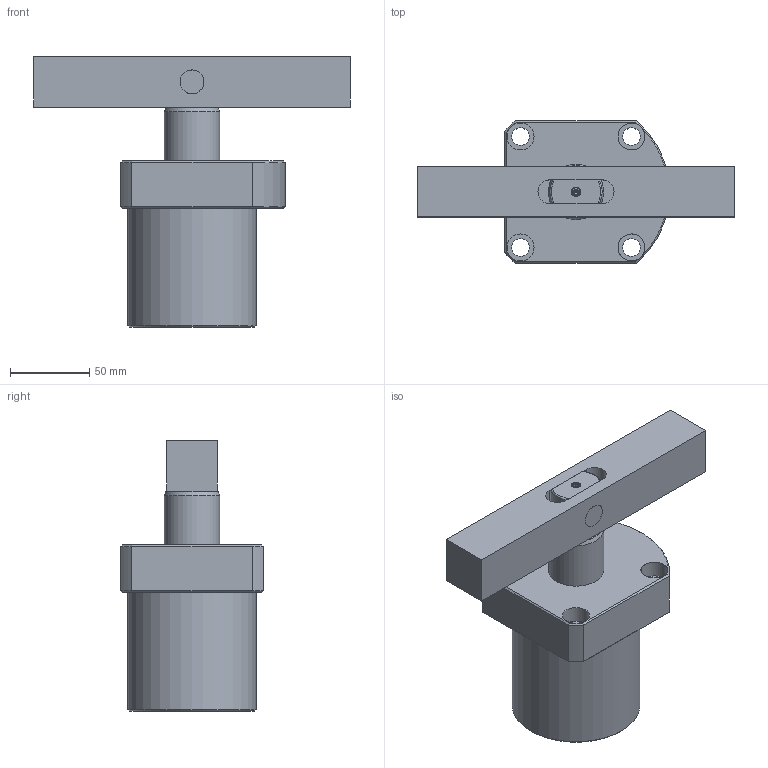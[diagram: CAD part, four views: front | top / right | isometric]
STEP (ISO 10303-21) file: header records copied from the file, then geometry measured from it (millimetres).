
FILE_DESCRIPTION(/* description */ ('Unknown'),/* implementation_level */ '2;1');
FILE_NAME(/* name */ 'HSC-FAM63D-B',/* time_stamp */ '2019-05-20T16:11:29+08:00',/* author */ ('Unknown'),/* organization */ ('Unknown'),/* preprocessor_version */ 'ST-DEVELOPER v16.7',/* originating_system */ 'DEX',/* authorisation */ $);
FILE_SCHEMA (('AUTOMOTIVE_DESIGN {1 0 10303 214 3 1 1}'));
Length unit declared in the file: millimetre
Products named in the file (5): HSC-FAM63D-B; HSC-FAM63D-CYLINDER; HSC-6302-D-AXLE CENTRE; HSC-6302-D-FIXED PIN; HSC-63D-B
Assembly tree (4 placements, depth 2):
  HSC-FAM63D-B
    HSC-FAM63D-CYLINDER
    HSC-6302-D-AXLE CENTRE
    HSC-6302-D-FIXED PIN
    HSC-63D-B
Bounding box: 200 x 90 x 170.8 mm (x, y, z)
Volume: 765174.6 mm3; surface area: 121635.6 mm2
Topology: 4 solids, 4 shells, 113 faces, 235 edges, 146 vertices
Faces by surface type: plane 49, cylinder 30, cone 24, bspline 6, torus 4
Full cylindrical faces by diameter (mm): 3.5 x2, 6 x2, 11 x4, 12 x2, 15 x4, 17 x4, 35 x2, 63 x2, 81 x1
Entity records: 2937 total; most frequent: CARTESIAN_POINT 616, DIRECTION 474, ORIENTED_EDGE 364, AXIS2_PLACEMENT_3D 208, FACE_BOUND 184, EDGE_CURVE 182, EDGE_LOOP 182, VERTEX_POINT 132
